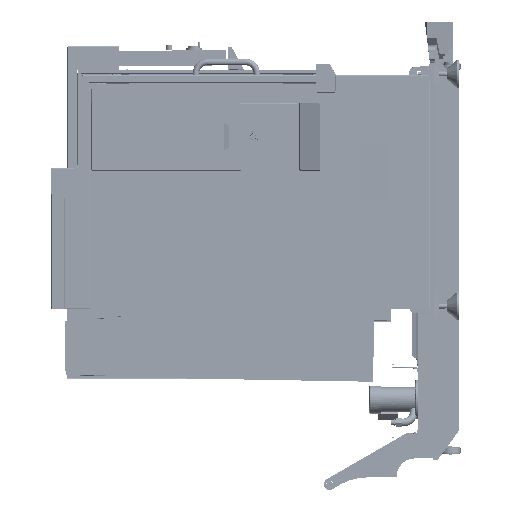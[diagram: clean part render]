
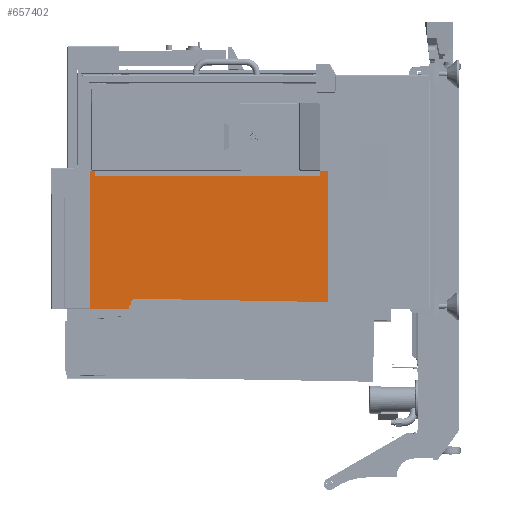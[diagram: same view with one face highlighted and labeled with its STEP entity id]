
A CAD part, left-side view. The second image highlights one B-rep face of the part: STEP entity #657402.
In plain terms, the highlighted planar face has unit normal (-1, 0, 0).
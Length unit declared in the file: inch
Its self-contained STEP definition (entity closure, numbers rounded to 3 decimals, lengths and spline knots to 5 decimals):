
#5963 = PLANE ( 'NONE',  #382846 ) ;
#34864 = CARTESIAN_POINT ( 'NONE',  ( -29.06938, 31.66361, -33.325 ) ) ;
#41772 = DIRECTION ( 'NONE',  ( 0., 0., 1. ) ) ;
#52631 = EDGE_CURVE ( 'NONE', #1146242, #466121, #618190, .T. ) ;
#82754 = FACE_OUTER_BOUND ( 'NONE', #857177, .T. ) ;
#129715 = LINE ( 'NONE', #499925, #998187 ) ;
#207920 = ORIENTED_EDGE ( 'NONE', *, *, #724697, .F. ) ;
#224893 = ORIENTED_EDGE ( 'NONE', *, *, #550959, .T. ) ;
#382846 = AXIS2_PLACEMENT_3D ( 'NONE', #971365, #547166, #453080 ) ;
#383694 = CARTESIAN_POINT ( 'NONE',  ( -29.06938, 31.66361, -33.325 ) ) ;
#453080 = DIRECTION ( 'NONE',  ( 0., 1., 0. ) ) ;
#466121 = VERTEX_POINT ( 'NONE', #936855 ) ;
#499925 = CARTESIAN_POINT ( 'NONE',  ( -29.06938, 31.66361, -6.575 ) ) ;
#547166 = DIRECTION ( 'NONE',  ( -1., 0., 0. ) ) ;
#550959 = EDGE_CURVE ( 'NONE', #1162510, #1146242, #819709, .T. ) ;
#618190 = LINE ( 'NONE', #1065414, #730740 ) ;
#657402 = ADVANCED_FACE ( 'NONE', ( #82754 ), #5963, .T. ) ;
#672683 = ORIENTED_EDGE ( 'NONE', *, *, #1102105, .F. ) ;
#724697 = EDGE_CURVE ( 'NONE', #1070593, #466121, #129715, .T. ) ;
#729820 = DIRECTION ( 'NONE',  ( 0., 0., 1. ) ) ;
#730740 = VECTOR ( 'NONE', #729820, 39.37008 ) ;
#759716 = LINE ( 'NONE', #1112817, #820685 ) ;
#819709 = LINE ( 'NONE', #383694, #975978 ) ;
#820685 = VECTOR ( 'NONE', #41772, 39.37008 ) ;
#831342 = DIRECTION ( 'NONE',  ( 0., -1., 0. ) ) ;
#857177 = EDGE_LOOP ( 'NONE', ( #207920, #672683, #224893, #875782 ) ) ;
#875782 = ORIENTED_EDGE ( 'NONE', *, *, #52631, .T. ) ;
#936855 = CARTESIAN_POINT ( 'NONE',  ( -29.06938, -14.41639, -6.575 ) ) ;
#943315 = CARTESIAN_POINT ( 'NONE',  ( -29.06938, -14.41639, -33.325 ) ) ;
#947328 = DIRECTION ( 'NONE',  ( 0., -1., 0. ) ) ;
#971365 = CARTESIAN_POINT ( 'NONE',  ( -29.06938, 31.66361, -33.325 ) ) ;
#975978 = VECTOR ( 'NONE', #831342, 39.37008 ) ;
#998187 = VECTOR ( 'NONE', #947328, 39.37008 ) ;
#998660 = CARTESIAN_POINT ( 'NONE',  ( -29.06938, 31.66361, -6.575 ) ) ;
#1065414 = CARTESIAN_POINT ( 'NONE',  ( -29.06938, -14.41639, -33.325 ) ) ;
#1070593 = VERTEX_POINT ( 'NONE', #998660 ) ;
#1102105 = EDGE_CURVE ( 'NONE', #1162510, #1070593, #759716, .T. ) ;
#1112817 = CARTESIAN_POINT ( 'NONE',  ( -29.06938, 31.66361, -33.325 ) ) ;
#1146242 = VERTEX_POINT ( 'NONE', #943315 ) ;
#1162510 = VERTEX_POINT ( 'NONE', #34864 ) ;
